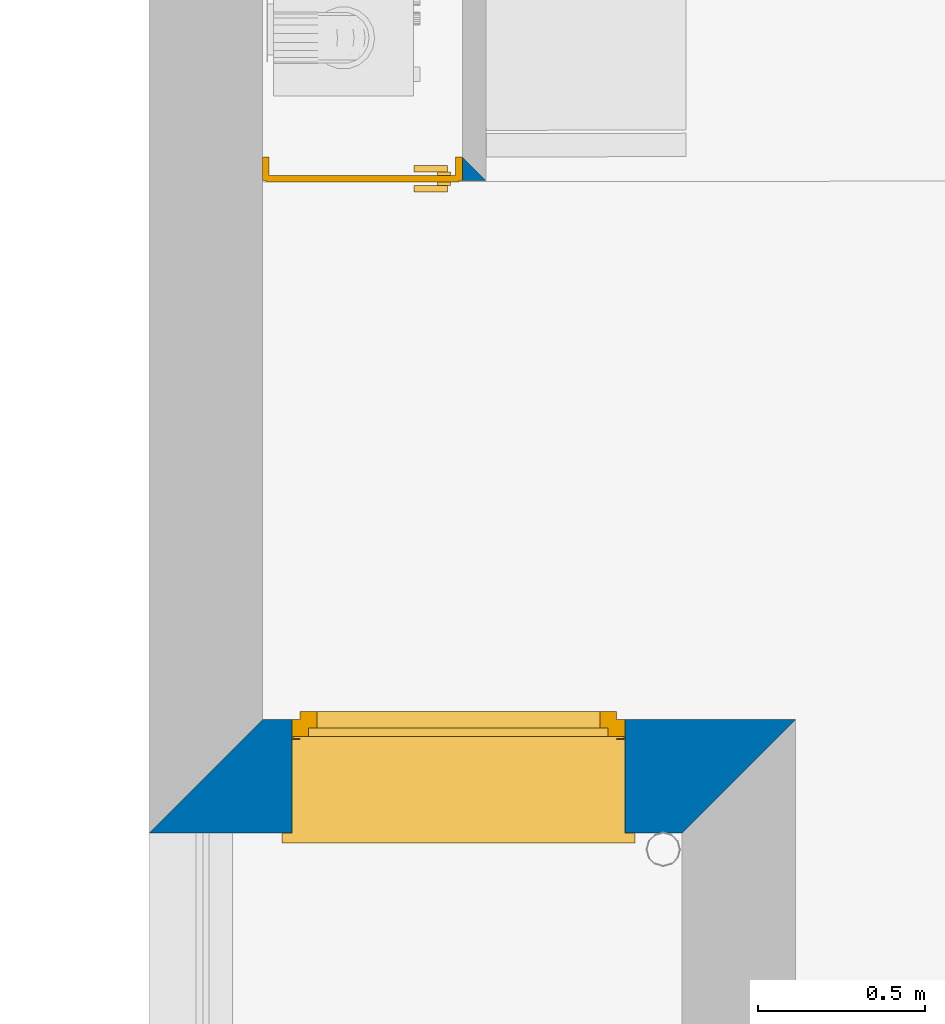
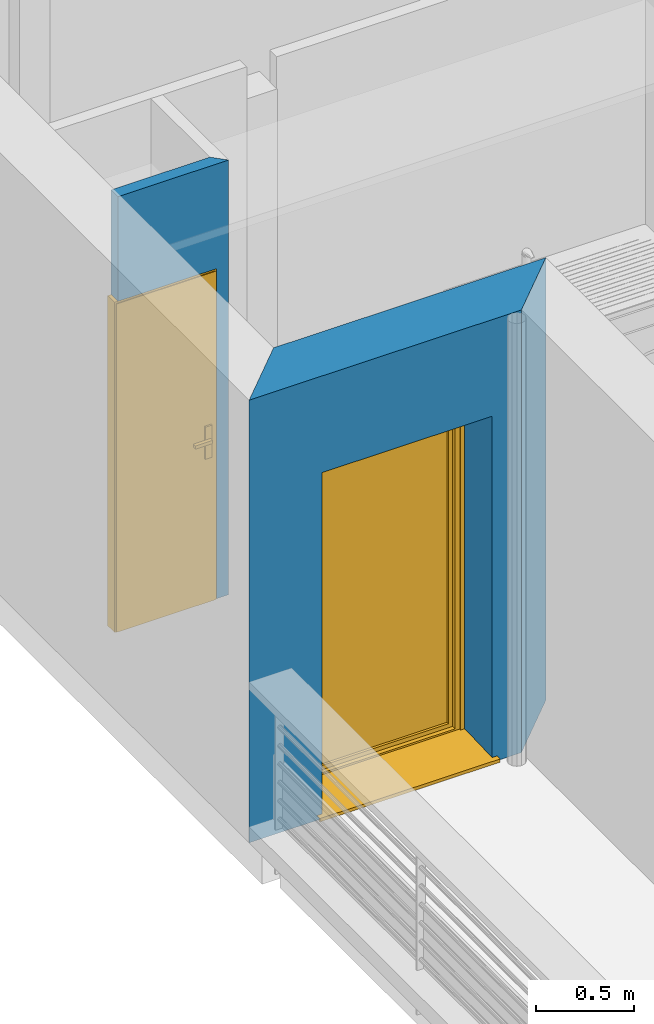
# One storey, part 20 of 171: 2 walls, 1 door, 1 window, 2 openings.
"""IFC2X3 building model written with IfcOpenShell, lengths in millimetres."""

from ifc_helpers import new_model, entity, si_unit, converted_unit, derived_unit, money_unit, direction, frame, origin_with_axes, origin_2d_with_axis, place, context, subcontext, project, spatial, polyline, rectangle, outline, extrude, open_shell, faceted_brep, surface_model, source, transform, mapped, material, layer, layer_set, layer_usage, type_object, element, fill, save


model = new_model("IFC2X3")

# Units and contexts
model_context = context("Model", 3, precision=0.01, world=origin_with_axes(), true_north=direction((0.0, 1.0)))
body_context = subcontext(model_context, "Body", "Model", "MODEL_VIEW")
ifc_project = project(units=[si_unit("LENGTHUNIT", "METRE", prefix="MILLI"), si_unit("AREAUNIT", "SQUARE_METRE"), si_unit("VOLUMEUNIT", "CUBIC_METRE"), converted_unit("PLANEANGLEUNIT", "DEGREE", entity("IfcPlaneAngleMeasure", 0.0174532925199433), si_unit("PLANEANGLEUNIT", "RADIAN"), dimensions=[0, 0, 0, 0, 0, 0, 0]), money_unit("USD"), converted_unit("TIMEUNIT", "Year", entity("IfcTimeMeasure", 31557600.0), si_unit("TIMEUNIT", "SECOND"), dimensions=[0, 0, 1, 0, 0, 0, 0]), si_unit("MASSUNIT", "GRAM", prefix="KILO"), si_unit("THERMODYNAMICTEMPERATUREUNIT", "DEGREE_CELSIUS"), si_unit("LUMINOUSINTENSITYUNIT", "LUMEN"), si_unit("ENERGYUNIT", "JOULE", prefix="MEGA"), derived_unit("THERMALCONDUCTANCEUNIT", [(si_unit("POWERUNIT", "WATT"), 1), (si_unit("LENGTHUNIT", "METRE"), -1), (si_unit("THERMODYNAMICTEMPERATUREUNIT", "KELVIN"), -1)]), derived_unit("SPECIFICHEATCAPACITYUNIT", [(si_unit("ENERGYUNIT", "JOULE"), 1), (si_unit("MASSUNIT", "GRAM", prefix="KILO"), -1), (si_unit("THERMODYNAMICTEMPERATUREUNIT", "KELVIN"), -1)]), derived_unit("MASSDENSITYUNIT", [(si_unit("MASSUNIT", "GRAM", prefix="KILO"), 1), (si_unit("VOLUMEUNIT", "CUBIC_METRE"), -1)])], contexts=[model_context])

# Site, building, storey
site_placement = place(None, origin_with_axes())
site = spatial("IfcSite", under=ifc_project, at=site_placement, Name="Site", CompositionType="ELEMENT")
building_placement = place(site_placement, origin_with_axes())
building = spatial("IfcBuilding", under=site, at=building_placement, Name="Bâtiment", CompositionType="ELEMENT")
storey_placement = place(building_placement, frame((0.0, 0.0, 3000.0), z_axis=(0.0, 0.0, 1.0), x_axis=(1.0, 0.0, 0.0)))
storey = spatial("IfcBuildingStorey", under=building, at=storey_placement, Name="rdc", CompositionType="ELEMENT", Elevation=3000.0)

# Wall, opening, door
ifc_material_1 = material(Name="Hachure solide 268963992")
ifc_layer_1 = layer(ifc_material_1, 70.0, ventilated="UNKNOWN")
ifc_layer_set_1 = layer_set([ifc_layer_1], Name="Cloison 70 0826278243")
ifc_layer_usage_1 = layer_usage(ifc_layer_set_1, "AXIS2", "NEGATIVE", 70.0)
wall_type_1 = type_object("IfcWallType", Name="Cloison 70 0826278243 70", PredefinedType="NOTDEFINED")
wall_1_placement = place(storey_placement, frame((2216994.233340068, -653082.9598860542, 0.0), z_axis=(0.0, 0.0, 1.0), x_axis=(1.0, 0.0, 0.0)))
wall_1 = element("IfcWallStandardCase", 1, at=wall_1_placement, inside=storey, type_object=wall_type_1, material=ifc_layer_usage_1, Name="Mur-149", context=body_context, shape_type="SweptSolid", body=[
    extrude(outline(polyline([(0.0, 0.0), (650.4101075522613, 0.0), (580.4101075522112, 69.99999999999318), (0.0, 69.99999999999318), (0.0, 0.0)])), origin_with_axes(), (0.0, 0.0, 1.0), 2700.0),
])
opening_1_placement = place(wall_1_placement, frame((279.9999999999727, 0.0, 0.0), z_axis=(0.0, 0.0, 1.0), x_axis=(1.0, 0.0, 0.0)))
opening_1 = element("IfcOpeningElement", 2, at=opening_1_placement, cuts=wall_1, Name="Por-274", context=body_context, shape_type="SweptSolid", body=[
    extrude(rectangle(XDim=599.9999999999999, YDim=2050.0, at=origin_2d_with_axis()), frame((0.0, 69.99999999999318, 1025.0), z_axis=(0.0, -1.0, 0.0), x_axis=(-1.0, 0.0, 0.0)), (0.0, 0.0, 1.0), 140.0),
])
door_style = type_object("IfcDoorStyle", Name="Porte_1v", ConstructionType="NOTDEFINED", OperationType="NOTDEFINED", ParameterTakesPrecedence=False, Sizeable=False)
shared_shape_1 = source(origin_with_axes(), body_context, "Body", "Brep", [
    faceted_brep([(300.0, 0.0, 0.0), (290.0, 0.0, 0.0), (290.0, 0.0, 2040.0), (-290.0, 0.0, 2040.0), (-290.0, 0.0, 0.0), (-300.0, 0.0, 0.0), (-300.0, 0.0, 2050.0), (300.0, 0.0, 2050.0), (300.0, -70.0, 0.0), (279.9999999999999, -70.0, 0.0), (279.9999999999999, -15.0, 0.0), (290.0, -15.0, 0.0), (290.0, -15.0, 2040.0), (-290.0, -15.0, 2040.0), (-290.0, -15.0, 0.0), (-279.9999999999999, -15.0, 0.0), (-279.9999999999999, -70.0, 0.0), (-300.0, -70.0, 0.0), (-300.0, -70.0, 2050.0), (300.0, -70.0, 2050.0), (-279.9999999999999, -70.0, 2030.0), (279.9999999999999, -70.0, 2030.0), (279.9999999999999, -15.0, 2030.0), (-279.9999999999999, -15.0, 2030.0)], [[[0, 1, 2, 3, 4, 5, 6, 7]], [[0, 8, 9, 10, 11, 1]], [[1, 11, 12, 2]], [[2, 12, 13, 3]], [[3, 13, 14, 4]], [[5, 4, 14, 15, 16, 17]], [[18, 6, 5, 17]], [[19, 7, 6, 18]], [[8, 0, 7, 19]], [[9, 8, 19, 18, 17, 16, 20, 21]], [[10, 9, 21, 22]], [[11, 10, 22, 23, 15, 14, 13, 12]], [[23, 20, 16, 15]], [[22, 21, 20, 23]]]),
    faceted_brep([(-224.9999999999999, -15.0, 900.0), (-264.9999999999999, -15.0, 900.0), (-264.9999999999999, -15.0, 1100.0), (-224.9999999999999, -15.0, 1100.0), (-224.9999999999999, -25.0, 900.0), (-264.9999999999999, -25.0, 900.0), (-264.9999999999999, -25.0, 1100.0), (-224.9999999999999, -25.0, 1100.0)], [[[0, 1, 2, 3]], [[1, 0, 4, 5]], [[2, 1, 5, 6]], [[3, 2, 6, 7]], [[0, 3, 7, 4]], [[5, 4, 7, 6]]]),
    faceted_brep([(-154.9999999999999, -25.0, 1000.0), (-254.9999999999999, -25.0, 1000.0), (-254.9999999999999, -25.0, 1020.0), (-154.9999999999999, -25.0, 1020.0), (-154.9999999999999, -45.0, 1000.0), (-254.9999999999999, -45.0, 1000.0), (-254.9999999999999, -45.0, 1020.0), (-154.9999999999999, -45.0, 1020.0)], [[[0, 1, 2, 3]], [[1, 0, 4, 5]], [[2, 1, 5, 6]], [[3, 2, 6, 7]], [[0, 3, 7, 4]], [[5, 4, 7, 6]]]),
    faceted_brep([(-224.9999999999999, 15.0, 900.0), (-264.9999999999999, 15.0, 900.0), (-264.9999999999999, 15.0, 1100.0), (-224.9999999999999, 15.0, 1100.0), (-224.9999999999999, 5.000000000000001, 900.0), (-264.9999999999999, 5.000000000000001, 900.0), (-264.9999999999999, 5.000000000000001, 1100.0), (-224.9999999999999, 5.000000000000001, 1100.0)], [[[0, 1, 2, 3]], [[1, 0, 4, 5]], [[2, 1, 5, 6]], [[3, 2, 6, 7]], [[0, 3, 7, 4]], [[5, 4, 7, 6]]]),
    faceted_brep([(-154.9999999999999, 35.0, 1000.0), (-254.9999999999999, 35.0, 1000.0), (-254.9999999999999, 35.0, 1020.0), (-154.9999999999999, 35.0, 1020.0), (-154.9999999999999, 15.0, 1000.0), (-254.9999999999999, 15.0, 1000.0), (-254.9999999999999, 15.0, 1020.0), (-154.9999999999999, 15.0, 1020.0)], [[[0, 1, 2, 3]], [[1, 0, 4, 5]], [[2, 1, 5, 6]], [[3, 2, 6, 7]], [[0, 3, 7, 4]], [[5, 4, 7, 6]]]),
    faceted_brep([(-290.0, 5.000000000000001, 0.0), (290.0, 5.000000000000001, 0.0), (290.0, -15.0, 0.0), (-290.0, -15.0, 0.0), (-290.0, 5.000000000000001, 2040.0), (290.0, 5.000000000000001, 2040.0), (290.0, -15.0, 2040.0), (-290.0, -15.0, 2040.0)], [[[0, 1, 2, 3]], [[0, 4, 5, 1]], [[1, 5, 6, 2]], [[3, 2, 6, 7]], [[4, 0, 3, 7]], [[5, 4, 7, 6]]]),
])
door_placement = place(opening_1_placement, frame((289.9999999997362, 0.0, 0.0), z_axis=(0.0, 0.0, 1.0), x_axis=(-1.0, 0.0, 0.0)))
door = element("IfcDoor", 3, at=door_placement, inside=storey, type_object=door_style, Name="Por-274", OverallHeight=2040.0, OverallWidth=580.0, context=body_context, shape_type="MappedRepresentation", body=[
    mapped(shared_shape_1, transform((289.9999999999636, 0.0, 0.0))),
])
fill(opening_1, door)

# Wall, opening, window
ifc_material_2 = material(Name="Parpaing 312445824")
ifc_layer_2 = layer(ifc_material_2, 180.0, ventilated="UNKNOWN")
ifc_material_3 = material(Name="Isolant styromousse 301821074")
ifc_layer_3 = layer(ifc_material_3, 160.0, ventilated="UNKNOWN")
ifc_layer_set_2 = layer_set([ifc_layer_2, ifc_layer_3], Name="isol int 18+16 0018356637")
ifc_layer_usage_2 = layer_usage(ifc_layer_set_2, "AXIS2", "POSITIVE", 0.0)
wall_type_2 = type_object("IfcWallType", Name="isol int 18+16 0018356637 340", PredefinedType="NOTDEFINED")
wall_2_placement = place(storey_placement, frame((2216634.233338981, -655041.4677782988, 0.0), z_axis=(0.0, 0.0, 1.0), x_axis=(1.0, 0.0, 0.0)))
wall_2 = element("IfcWallStandardCase", 4, at=wall_2_placement, inside=storey, type_object=wall_type_2, material=ifc_layer_usage_2, Name="Mur-142", context=body_context, shape_type="SweptSolid", body=[
    extrude(outline(polyline([(4.547473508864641e-10, 0.0), (1600.000000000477, 0.0), (1940.000000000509, 340.0000000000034), (340.0000001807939, 340.0000000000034), (4.547473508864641e-10, 0.0)])), origin_with_axes(), (0.0, 0.0, 1.0), 2750.0),
])
opening_2_placement = place(wall_2_placement, frame((927.916635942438, 0.0, 0.0), z_axis=(0.0, 0.0, 1.0), x_axis=(1.0, 0.0, 0.0)))
opening_2 = element("IfcOpeningElement", 5, at=opening_2_placement, cuts=wall_2, Name="Fen-208", context=body_context, shape_type="Brep", body=[
    faceted_brep([(-500.0, 341.0000000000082, 2150.0), (500.0, 341.0000000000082, 2150.0), (500.0, 341.0000000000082, 0.0), (-500.0, 341.0000000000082, 0.0), (-500.0, 530.0000000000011, 2150.0), (500.0, 530.0000000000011, 2150.0), (500.0, 290.0000000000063, 2150.0), (500.0, 290.0000000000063, 0.0), (500.0, -1.000000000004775, 0.0), (-500.0, -1.000000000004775, 0.0), (-500.0, 290.0000000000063, 0.0), (-500.0, 290.0000000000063, 2150.0), (-500.0, 280.0000000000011, 2150.0), (-500.0, 280.0000000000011, 2400.0), (-500.0, 530.0000000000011, 2400.0), (500.0, 530.0000000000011, 2400.0), (500.0, 280.0000000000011, 2400.0), (500.0, 280.0000000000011, 2150.0), (500.0, -1.000000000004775, 2150.0), (-500.0, -1.000000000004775, 2150.0)], [[[0, 1, 2, 3]], [[1, 0, 4, 5]], [[1, 6, 7, 2]], [[7, 8, 9, 10, 3, 2]], [[11, 0, 3, 10]], [[0, 11, 12, 13, 14, 4]], [[4, 14, 15, 5]], [[6, 1, 5, 15, 16, 17]], [[6, 17, 18, 8, 7]], [[19, 9, 8, 18]], [[12, 11, 10, 9, 19]], [[12, 17, 16, 13]], [[14, 13, 16, 15]], [[17, 12, 19, 18]]]),
])
window_style = type_object("IfcWindowStyle", Name="Fenêtre 27", ConstructionType="NOTDEFINED", OperationType="SINGLE_PANEL", ParameterTakesPrecedence=False, Sizeable=False)
shared_shape_2 = source(origin_with_axes(), body_context, "Body", "SurfaceModel", [
    surface_model("IfcShellBasedSurfaceModel", [(-500.0, -51.00000000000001, 40.00000000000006), (500.0, -51.00000000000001, 40.0), (500.0, -51.00000000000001, 50.0), (-500.0, -51.00000000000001, 50.00000000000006), (-530.0, -369.9999999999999, 28.96551724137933), (530.0, -369.9999999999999, 28.96551724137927), (530.0, -339.9999999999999, 30.00324289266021), (500.0, -339.9999999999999, 30.00324289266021), (-500.0, -339.9999999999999, 30.00324289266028), (-530.0, -339.9999999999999, 30.00324289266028), (-530.0, -369.9999999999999, 8.96551724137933), (530.0, -369.9999999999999, 8.965517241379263), (-530.0, -359.9999999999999, 18.96551724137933), (530.0, -359.9999999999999, 18.96551724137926)], [open_shell([[[0, 1, 2, 3]], [[4, 5, 6, 7, 1, 0, 8, 9]], [[10, 11, 5, 4]], [[12, 13, 11, 10]]])]),
    faceted_brep([(500.0, -59.99999999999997, 2400.0), (500.0, 190.0, 2400.0), (497.0, 190.0, 2400.0), (497.0, -59.99999999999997, 2400.0), (500.0, -59.99999999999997, 2150.0), (500.0, 190.0, 2150.0), (497.0, 190.0, 2150.0), (497.0, -59.99999999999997, 2150.0)], [[[0, 1, 2, 3]], [[0, 4, 5, 1]], [[1, 5, 6, 2]], [[3, 2, 6, 7]], [[4, 0, 3, 7]], [[5, 4, 7, 6]]]),
    faceted_brep([(-497.0, -59.99999999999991, 2400.0), (-497.0, 190.0000000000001, 2400.0), (-500.0, 190.0000000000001, 2400.0), (-500.0, -59.99999999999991, 2400.0), (-497.0, -59.99999999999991, 2150.0), (-497.0, 190.0000000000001, 2150.0), (-500.0, 190.0000000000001, 2150.0), (-500.0, -59.99999999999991, 2150.0)], [[[0, 1, 2, 3]], [[0, 4, 5, 1]], [[1, 5, 6, 2]], [[3, 2, 6, 7]], [[4, 0, 3, 7]], [[5, 4, 7, 6]]]),
    faceted_brep([(497.0, -60.0, 2150.0), (497.0, -60.0, 2400.0), (-497.0, -59.99999999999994, 2400.0), (-497.0, -59.99999999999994, 2150.0), (497.0, -56.99999999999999, 2150.0), (497.0, -56.99999999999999, 2397.0), (497.0, 187.0, 2397.0), (497.0, 187.0, 2153.0), (497.0, -37.99999999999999, 2153.0), (497.0, -37.99999999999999, 2150.0), (497.0, 190.0, 2150.0), (497.0, 190.0, 2400.0), (-497.0, 190.0000000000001, 2400.0), (-497.0, 190.0000000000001, 2150.0), (-497.0, -37.99999999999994, 2150.0), (-497.0, -37.99999999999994, 2153.0), (-497.0, 187.0000000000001, 2153.0), (-497.0, 187.0000000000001, 2397.0), (-497.0, -56.99999999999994, 2397.0), (-497.0, -56.99999999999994, 2150.0)], [[[0, 1, 2, 3]], [[0, 4, 5, 6, 7, 8, 9, 10, 11, 1]], [[1, 11, 12, 2]], [[3, 2, 12, 13, 14, 15, 16, 17, 18, 19]], [[4, 0, 3, 19]], [[5, 4, 19, 18]], [[6, 5, 18, 17]], [[7, 6, 17, 16]], [[8, 7, 16, 15]], [[9, 8, 15, 14]], [[10, 9, 14, 13]], [[11, 10, 13, 12]]]),
    faceted_brep([(494.0, -40.37442957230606, 2256.419644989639), (494.0, -35.54711042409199, 2238.403844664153), (494.0, -27.66471820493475, 2221.5), (494.0, -16.9667554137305, 2206.22172576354), (494.0, -3.778274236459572, 2193.033244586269), (494.0, 11.50000000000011, 2182.335281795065), (494.0, 28.40384466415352, 2174.452889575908), (494.0, 46.4196449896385, 2169.625570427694), (494.0, 65.00000000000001, 2168.0), (494.0, 83.58035501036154, 2169.625570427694), (494.0, 101.5961553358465, 2174.452889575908), (494.0, 118.4999999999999, 2182.335281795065), (494.0, 133.7782742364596, 2193.033244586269), (494.0, 146.9667554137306, 2206.22172576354), (494.0, 157.6647182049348, 2221.5), (494.0, 165.5471104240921, 2238.403844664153), (494.0, 170.3744295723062, 2256.419644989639), (494.0, 171.9999999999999, 2275.0), (494.0, 170.3744295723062, 2293.580355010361), (494.0, 165.5471104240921, 2311.596155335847), (494.0, 157.6647182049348, 2328.5), (494.0, 146.9667554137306, 2343.77827423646), (494.0, 133.7782742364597, 2356.96675541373), (494.0, 118.5, 2367.664718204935), (494.0, 101.5961553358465, 2375.547110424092), (494.0, 83.58035501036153, 2380.374429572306), (494.0, 64.99999999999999, 2382.0), (494.0, 46.41964498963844, 2380.374429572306), (494.0, 28.40384466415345, 2375.547110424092), (494.0, 11.5, 2367.664718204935), (494.0, -3.778274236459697, 2356.96675541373), (494.0, -16.96675541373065, 2343.77827423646), (494.0, -27.66471820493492, 2328.5), (494.0, -35.54711042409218, 2311.596155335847), (494.0, -40.37442957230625, 2293.580355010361), (494.0, -41.99999999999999, 2275.0), (-494.0, -40.374429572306, 2256.419644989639), (-494.0, -35.54711042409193, 2238.403844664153), (-494.0, -27.6647182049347, 2221.5), (-494.0, -16.96675541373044, 2206.22172576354), (-494.0, -3.778274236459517, 2193.033244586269), (-494.0, 11.50000000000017, 2182.335281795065), (-494.0, 28.40384466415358, 2174.452889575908), (-494.0, 46.41964498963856, 2169.625570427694), (-494.0, 65.00000000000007, 2168.0), (-494.0, 83.5803550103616, 2169.625570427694), (-494.0, 101.5961553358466, 2174.452889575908), (-494.0, 118.5, 2182.335281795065), (-494.0, 133.7782742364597, 2193.033244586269), (-494.0, 146.9667554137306, 2206.22172576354), (-494.0, 157.6647182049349, 2221.5), (-494.0, 165.5471104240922, 2238.403844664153), (-494.0, 170.3744295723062, 2256.419644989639), (-494.0, 172.0, 2275.0), (-494.0, 170.3744295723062, 2293.580355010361), (-494.0, 165.5471104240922, 2311.596155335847), (-494.0, 157.6647182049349, 2328.5), (-494.0, 146.9667554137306, 2343.77827423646), (-494.0, 133.7782742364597, 2356.96675541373), (-494.0, 118.5, 2367.664718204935), (-494.0, 101.5961553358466, 2375.547110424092), (-494.0, 83.58035501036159, 2380.374429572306), (-494.0, 65.00000000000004, 2382.0), (-494.0, 46.41964498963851, 2380.374429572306), (-494.0, 28.40384466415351, 2375.547110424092), (-494.0, 11.50000000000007, 2367.664718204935), (-494.0, -3.778274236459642, 2356.96675541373), (-494.0, -16.96675541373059, 2343.77827423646), (-494.0, -27.66471820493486, 2328.5), (-494.0, -35.54711042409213, 2311.596155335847), (-494.0, -40.37442957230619, 2293.580355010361), (-494.0, -41.99999999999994, 2275.0)], [[[0, 1, 2, 3, 4, 5, 6, 7, 8, 9, 10, 11, 12, 13, 14, 15, 16, 17, 18, 19, 20, 21, 22, 23, 24, 25, 26, 27, 28, 29, 30, 31, 32, 33, 34, 35]], [[1, 0, 36, 37]], [[2, 1, 37, 38]], [[3, 2, 38, 39]], [[4, 3, 39, 40]], [[5, 4, 40, 41]], [[6, 5, 41, 42]], [[7, 6, 42, 43]], [[8, 7, 43, 44]], [[9, 8, 44, 45]], [[10, 9, 45, 46]], [[11, 10, 46, 47]], [[12, 11, 47, 48]], [[13, 12, 48, 49]], [[14, 13, 49, 50]], [[15, 14, 50, 51]], [[16, 15, 51, 52]], [[17, 16, 52, 53]], [[18, 17, 53, 54]], [[19, 18, 54, 55]], [[20, 19, 55, 56]], [[21, 20, 56, 57]], [[22, 21, 57, 58]], [[23, 22, 58, 59]], [[24, 23, 59, 60]], [[25, 24, 60, 61]], [[26, 25, 61, 62]], [[27, 26, 62, 63]], [[28, 27, 63, 64]], [[29, 28, 64, 65]], [[30, 29, 65, 66]], [[31, 30, 66, 67]], [[32, 31, 67, 68]], [[33, 32, 68, 69]], [[34, 33, 69, 70]], [[35, 34, 70, 71]], [[0, 35, 71, 36]], [[36, 71, 70, 69, 68, 67, 66, 65, 64, 63, 62, 61, 60, 59, 58, 57, 56, 55, 54, 53, 52, 51, 50, 49, 48, 47, 46, 45, 44, 43, 42, 41, 40, 39, 38, 37]]]),
    faceted_brep([(-500.0, -34.99999999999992, 30.0), (-500.0, -59.99999999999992, 30.0), (-500.0, -59.99999999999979, 2150.0), (-500.0, -34.99999999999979, 2150.0), (-475.0, -34.99999999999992, 30.0), (-475.0, -37.99999999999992, 30.0), (-497.0, -37.99999999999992, 30.0), (-497.0, -56.99999999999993, 30.0), (-475.0, -56.99999999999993, 30.0), (-475.0, -59.99999999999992, 30.0), (-475.0, -59.99999999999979, 2150.0), (-475.0, -56.99999999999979, 2150.0), (-497.0, -56.99999999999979, 2150.0), (-497.0, -37.99999999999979, 2150.0), (-475.0, -37.99999999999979, 2150.0), (-475.0, -34.99999999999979, 2150.0)], [[[0, 1, 2, 3]], [[0, 4, 5, 6, 7, 8, 9, 1]], [[1, 9, 10, 2]], [[3, 2, 10, 11, 12, 13, 14, 15]], [[4, 0, 3, 15]], [[5, 4, 15, 14]], [[6, 5, 14, 13]], [[7, 6, 13, 12]], [[8, 7, 12, 11]], [[9, 8, 11, 10]]]),
    faceted_brep([(500.0, -34.99999999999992, 30.0), (500.0, -34.99999999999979, 2150.0), (500.0, -59.99999999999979, 2150.0), (500.0, -59.99999999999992, 30.0), (475.0, -34.99999999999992, 30.0), (475.0, -34.99999999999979, 2150.0), (475.0, -37.99999999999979, 2150.0), (497.0, -37.99999999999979, 2150.0), (497.0, -56.99999999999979, 2150.0), (475.0, -56.99999999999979, 2150.0), (475.0, -59.99999999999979, 2150.0), (475.0, -59.99999999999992, 30.0), (475.0, -56.99999999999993, 30.0), (497.0, -56.99999999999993, 30.0), (497.0, -37.99999999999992, 30.0), (475.0, -37.99999999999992, 30.0)], [[[0, 1, 2, 3]], [[4, 5, 1, 0]], [[1, 5, 6, 7, 8, 9, 10, 2]], [[3, 2, 10, 11]], [[0, 3, 11, 12, 13, 14, 15, 4]], [[15, 6, 5, 4]], [[14, 7, 6, 15]], [[13, 8, 7, 14]], [[12, 9, 8, 13]], [[11, 10, 9, 12]]]),
    faceted_brep([(-497.0, -46.66666666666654, 2275.0), (497.0, -46.6666666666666, 2275.0), (497.0, -46.6666666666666, 2266.666666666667), (-497.0, -46.66666666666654, 2266.666666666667), (-497.0, -51.66666666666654, 2275.0), (497.0, -51.6666666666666, 2275.0), (497.0, -51.6666666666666, 2266.666666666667), (497.0, -49.99999999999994, 2250.0), (497.0, -44.99999999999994, 2250.0), (-497.0, -44.99999999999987, 2250.0), (-497.0, -49.99999999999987, 2250.0), (-497.0, -51.66666666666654, 2266.666666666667)], [[[0, 1, 2, 3]], [[1, 0, 4, 5]], [[1, 5, 6, 7, 8, 2]], [[2, 8, 9, 3]], [[4, 0, 3, 9, 10, 11]], [[6, 5, 4, 11]], [[7, 6, 11, 10]], [[8, 7, 10, 9]]]),
    faceted_brep([(497.0, -44.99999999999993, 2250.0), (497.0, -46.6666666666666, 2233.333333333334), (-497.0, -46.66666666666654, 2233.333333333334), (-497.0, -44.99999999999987, 2250.0), (497.0, -49.99999999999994, 2250.0), (497.0, -51.6666666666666, 2233.333333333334), (497.0, -51.6666666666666, 2216.666666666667), (497.0, -49.99999999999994, 2200.0), (497.0, -44.99999999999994, 2200.0), (497.0, -46.6666666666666, 2216.666666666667), (-497.0, -46.66666666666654, 2216.666666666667), (-497.0, -44.99999999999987, 2200.0), (-497.0, -49.99999999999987, 2200.0), (-497.0, -51.66666666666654, 2216.666666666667), (-497.0, -51.66666666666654, 2233.333333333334), (-497.0, -49.99999999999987, 2250.0)], [[[0, 1, 2, 3]], [[0, 4, 5, 6, 7, 8, 9, 1]], [[1, 9, 10, 2]], [[3, 2, 10, 11, 12, 13, 14, 15]], [[4, 0, 3, 15]], [[5, 4, 15, 14]], [[6, 5, 14, 13]], [[7, 6, 13, 12]], [[8, 7, 12, 11]], [[9, 8, 11, 10]]]),
    faceted_brep([(497.0, -44.99999999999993, 2200.0), (497.0, -46.6666666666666, 2183.333333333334), (-497.0, -46.66666666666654, 2183.333333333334), (-497.0, -44.99999999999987, 2200.0), (497.0, -49.99999999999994, 2200.0), (497.0, -51.6666666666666, 2183.333333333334), (497.0, -51.6666666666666, 2166.666666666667), (497.0, -49.99999999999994, 2150.000000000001), (497.0, -44.99999999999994, 2150.000000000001), (497.0, -46.6666666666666, 2166.666666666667), (-497.0, -46.66666666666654, 2166.666666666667), (-497.0, -44.99999999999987, 2150.000000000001), (-497.0, -49.99999999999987, 2150.000000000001), (-497.0, -51.66666666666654, 2166.666666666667), (-497.0, -51.66666666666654, 2183.333333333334), (-497.0, -49.99999999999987, 2200.0)], [[[0, 1, 2, 3]], [[0, 4, 5, 6, 7, 8, 9, 1]], [[1, 9, 10, 2]], [[3, 2, 10, 11, 12, 13, 14, 15]], [[4, 0, 3, 15]], [[5, 4, 15, 14]], [[6, 5, 14, 13]], [[7, 6, 13, 12]], [[8, 7, 12, 11]], [[9, 8, 11, 10]]]),
    faceted_brep([(475.0000000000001, 0.0, 2100.0), (475.0000000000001, -25.00000000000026, 2100.0), (450.0, -25.00000000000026, 2100.0), (450.0, -50.00000000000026, 2100.0), (500.0, -50.00000000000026, 2100.0), (500.0, 0.0, 2100.0), (475.0000000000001, 0.0, 50.00000000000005), (475.0000000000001, -25.00000000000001, 50.00000000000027), (450.0, -25.00000000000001, 50.00000000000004), (450.0, -50.00000000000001, 50.00000000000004), (500.0, -50.00000000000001, 50.00000000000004), (500.0, 0.0, 50.00000000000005)], [[[0, 1, 2, 3, 4, 5]], [[1, 0, 6, 7]], [[8, 2, 1, 7]], [[2, 8, 9, 3]], [[4, 3, 9, 10]], [[5, 4, 10, 11]], [[6, 0, 5, 11]], [[7, 6, 11, 10, 9, 8]]]),
    faceted_brep([(-450.0, -25.00000000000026, 2100.0), (-475.0000000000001, -25.00000000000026, 2100.0), (-475.0000000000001, 0.0, 2100.0), (-500.0, 0.0, 2100.0), (-500.0, -50.00000000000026, 2100.0), (-450.0, -50.00000000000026, 2100.0), (-450.0, -25.00000000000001, 50.00000000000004), (-475.0000000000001, -25.00000000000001, 50.00000000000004), (-475.0000000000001, 0.0, 50.00000000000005), (-500.0, 0.0, 50.00000000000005), (-500.0, -50.00000000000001, 50.00000000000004), (-450.0, -50.00000000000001, 50.00000000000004)], [[[0, 1, 2, 3, 4, 5]], [[1, 0, 6, 7]], [[8, 2, 1, 7]], [[2, 8, 9, 3]], [[9, 10, 4, 3]], [[10, 11, 5, 4]], [[6, 0, 5, 11]], [[7, 6, 11, 10, 9, 8]]]),
    faceted_brep([(-450.0, -25.00000000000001, 50.00000000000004), (-475.0000000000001, -25.00000000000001, 50.00000000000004), (-475.0000000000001, 0.0, 50.00000000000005), (-500.0, 0.0, 50.00000000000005), (-500.0, -50.00000000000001, 50.00000000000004), (-450.0, -50.00000000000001, 50.00000000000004), (450.0, -25.00000000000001, 50.00000000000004), (475.0000000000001, -25.00000000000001, 50.00000000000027), (475.0000000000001, -25.0, 24.99999999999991), (-475.0000000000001, -25.0, 24.99999999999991), (-475.0000000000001, 0.0, 24.99999999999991), (475.0000000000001, 0.0, 24.99999999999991), (475.0000000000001, 0.0, 50.00000000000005), (500.0, 0.0, 50.00000000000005), (500.0, 0.0, 0.0), (-500.0, 0.0, 0.0), (-500.0, -50.0, 0.0), (500.0, -50.00000000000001, 50.00000000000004), (450.0, -50.00000000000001, 50.00000000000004), (500.0, -50.0, 0.0)], [[[0, 1, 2, 3, 4, 5]], [[1, 0, 6, 7, 8, 9]], [[10, 2, 1, 9]], [[11, 12, 13, 14, 15, 3, 2, 10]], [[15, 16, 4, 3]], [[17, 18, 5, 4, 16, 19]], [[6, 0, 5, 18]], [[7, 6, 18, 17, 13, 12]], [[7, 12, 11, 8]], [[11, 10, 9, 8]], [[13, 17, 19, 14]], [[14, 19, 16, 15]]]),
    faceted_brep([(475.0000000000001, 0.0, 2100.0), (475.0000000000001, 0.0, 2125.0), (-475.0000000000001, 0.0, 2125.0), (-475.0000000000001, 0.0, 2100.0), (-500.0, 0.0, 2100.0), (-500.0, 0.0, 2150.0), (500.0, 0.0, 2150.0), (500.0, 0.0, 2100.0), (475.0000000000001, -25.00000000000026, 2100.0), (475.0000000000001, -25.00000000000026, 2125.0), (-475.0000000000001, -25.00000000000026, 2125.0), (-475.0000000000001, -25.00000000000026, 2100.0), (-450.0, -25.00000000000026, 2100.0), (-450.0, -50.00000000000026, 2100.0), (-500.0, -50.00000000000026, 2100.0), (-500.0, -50.00000000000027, 2150.0), (500.0, -50.00000000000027, 2150.0), (500.0, -50.00000000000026, 2100.0), (450.0, -50.00000000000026, 2100.0), (450.0, -25.00000000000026, 2100.0)], [[[0, 1, 2, 3, 4, 5, 6, 7]], [[1, 0, 8, 9]], [[2, 1, 9, 10]], [[3, 2, 10, 11]], [[11, 12, 13, 14, 4, 3]], [[4, 14, 15, 5]], [[5, 15, 16, 6]], [[6, 16, 17, 7]], [[8, 0, 7, 17, 18, 19]], [[12, 11, 10, 9, 8, 19]], [[12, 19, 18, 13]], [[14, 13, 18, 17, 16, 15]]]),
    faceted_brep([(425.0000000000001, -25.00000000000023, 2075.0), (475.0000000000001, -25.00000000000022, 2075.0), (475.0000000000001, 24.99999999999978, 2075.0), (425.0000000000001, 24.99999999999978, 2075.0), (425.0000000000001, -24.99999999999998, 75.00000000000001), (475.0000000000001, -24.99999999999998, 75.00000000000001), (475.0000000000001, 25.00000000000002, 75.00000000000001), (425.0000000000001, 25.00000000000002, 75.00000000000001)], [[[0, 1, 2, 3]], [[0, 4, 5, 1]], [[1, 5, 6, 2]], [[3, 2, 6, 7]], [[4, 0, 3, 7]], [[5, 4, 7, 6]]]),
    faceted_brep([(-425.0000000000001, -25.00000000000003, 75.00000000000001), (-475.0000000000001, -25.00000000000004, 75.00000000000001), (-475.0000000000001, 24.99999999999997, 75.00000000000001), (-425.0000000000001, 24.99999999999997, 75.00000000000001), (-425.0000000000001, -25.00000000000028, 2075.0), (-475.0000000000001, -25.00000000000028, 2075.0), (-475.0000000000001, 24.99999999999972, 2075.0), (-425.0000000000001, 24.99999999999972, 2075.0)], [[[0, 1, 2, 3]], [[0, 4, 5, 1]], [[1, 5, 6, 2]], [[3, 2, 6, 7]], [[4, 0, 3, 7]], [[5, 4, 7, 6]]]),
    faceted_brep([(-475.0000000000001, -25.00000000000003, 25.0), (-475.0000000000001, -25.00000000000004, 75.00000000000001), (-475.0000000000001, 24.99999999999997, 75.00000000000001), (-475.0000000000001, 24.99999999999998, 25.00000000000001), (475.0000000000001, -24.99999999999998, 25.0), (475.0000000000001, -24.99999999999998, 75.00000000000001), (425.0000000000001, -24.99999999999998, 75.00000000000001), (-425.0000000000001, -25.00000000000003, 75.00000000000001), (-425.0000000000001, 24.99999999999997, 75.00000000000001), (425.0000000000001, 25.00000000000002, 75.00000000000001), (475.0000000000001, 25.00000000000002, 75.00000000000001), (475.0000000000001, 25.00000000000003, 25.00000000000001)], [[[0, 1, 2, 3]], [[0, 4, 5, 6, 7, 1]], [[1, 7, 8, 2]], [[3, 2, 8, 9, 10, 11]], [[4, 0, 3, 11]], [[5, 4, 11, 10]], [[6, 5, 10, 9]], [[7, 6, 9, 8]]]),
    faceted_brep([(475.0000000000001, -25.00000000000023, 2125.0), (475.0000000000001, -25.00000000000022, 2075.0), (475.0000000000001, 24.99999999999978, 2075.0), (475.0000000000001, 24.99999999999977, 2125.0), (-475.0000000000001, -25.00000000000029, 2125.0), (-475.0000000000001, -25.00000000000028, 2075.0), (-425.0000000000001, -25.00000000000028, 2075.0), (425.0000000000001, -25.00000000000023, 2075.0), (425.0000000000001, 24.99999999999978, 2075.0), (-425.0000000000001, 24.99999999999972, 2075.0), (-475.0000000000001, 24.99999999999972, 2075.0), (-475.0000000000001, 24.99999999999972, 2125.0)], [[[0, 1, 2, 3]], [[0, 4, 5, 6, 7, 1]], [[1, 7, 8, 2]], [[3, 2, 8, 9, 10, 11]], [[4, 0, 3, 11]], [[5, 4, 11, 10]], [[6, 5, 10, 9]], [[7, 6, 9, 8]]]),
    surface_model("IfcShellBasedSurfaceModel", [(425.0000000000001, -10.00000000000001, 75.00000000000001), (425.0000000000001, -10.00000000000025, 2075.0), (-425.0000000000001, -10.00000000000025, 2075.0), (-425.0000000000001, -10.00000000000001, 75.00000000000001)], [open_shell([[[0, 1, 2, 3]]])]),
    surface_model("IfcShellBasedSurfaceModel", [(425.0000000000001, 9.999999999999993, 75.00000000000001), (-425.0000000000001, 9.999999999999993, 75.00000000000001), (-425.0000000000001, 9.99999999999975, 2075.0), (425.0000000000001, 9.99999999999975, 2075.0)], [open_shell([[[0, 1, 2, 3]]])]),
])
window_placement = place(opening_2_placement, frame((-500.0, 0.0, 0.0), z_axis=(0.0, 0.0, 1.0), x_axis=(1.0, 0.0, 0.0)))
window = element("IfcWindow", 6, at=window_placement, inside=storey, type_object=window_style, Name="Fen-208", OverallHeight=2150.0, OverallWidth=1000.0, context=body_context, shape_type="MappedRepresentation", body=[
    mapped(shared_shape_2, transform((500.0, 340.0000000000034, 0.0))),
])
fill(opening_2, window)

save(model, "model.ifc")
